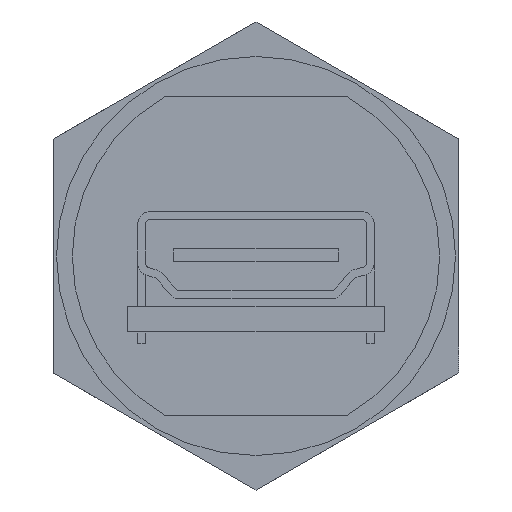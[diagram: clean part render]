
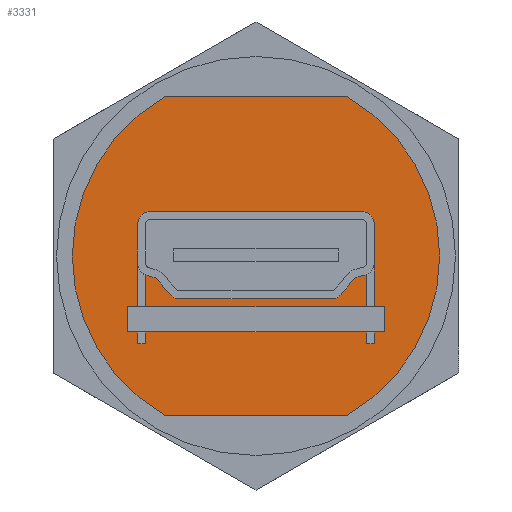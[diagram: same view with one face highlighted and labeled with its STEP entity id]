
A CAD part, left-side view. The second image highlights one B-rep face of the part: STEP entity #3331.
In plain terms, the highlighted planar face has unit normal (-1, 0, 0).
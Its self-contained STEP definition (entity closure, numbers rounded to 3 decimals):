
#259=LINE('',#8018,#543);
#260=LINE('',#8022,#544);
#261=LINE('',#8026,#545);
#262=LINE('',#8028,#546);
#263=LINE('',#8030,#547);
#264=LINE('',#8031,#548);
#543=VECTOR('',#3952,1.);
#544=VECTOR('',#3955,1.);
#545=VECTOR('',#3958,1.);
#546=VECTOR('',#3959,1.);
#547=VECTOR('',#3960,1.);
#548=VECTOR('',#3961,1.);
#835=FACE_BOUND('',#1108,.T.);
#916=FACE_OUTER_BOUND('',#1107,.T.);
#1107=EDGE_LOOP('',(#2547,#2548,#2549,#2550));
#1108=EDGE_LOOP('',(#2551,#2552,#2553,#2554));
#1248=CIRCLE('',#3595,11.6);
#1249=CIRCLE('',#3596,11.6);
#1452=VERTEX_POINT('',#8016);
#1453=VERTEX_POINT('',#8017);
#1454=VERTEX_POINT('',#8019);
#1455=VERTEX_POINT('',#8021);
#1456=VERTEX_POINT('',#8024);
#1457=VERTEX_POINT('',#8025);
#1458=VERTEX_POINT('',#8027);
#1459=VERTEX_POINT('',#8029);
#1852=EDGE_CURVE('',#1452,#1453,#259,.T.);
#1853=EDGE_CURVE('',#1453,#1454,#1248,.T.);
#1854=EDGE_CURVE('',#1454,#1455,#260,.T.);
#1855=EDGE_CURVE('',#1455,#1452,#1249,.T.);
#1856=EDGE_CURVE('',#1456,#1457,#261,.T.);
#1857=EDGE_CURVE('',#1458,#1456,#262,.T.);
#1858=EDGE_CURVE('',#1459,#1458,#263,.T.);
#1859=EDGE_CURVE('',#1459,#1457,#264,.T.);
#2547=ORIENTED_EDGE('',*,*,#1852,.T.);
#2548=ORIENTED_EDGE('',*,*,#1853,.T.);
#2549=ORIENTED_EDGE('',*,*,#1854,.T.);
#2550=ORIENTED_EDGE('',*,*,#1855,.T.);
#2551=ORIENTED_EDGE('',*,*,#1856,.F.);
#2552=ORIENTED_EDGE('',*,*,#1857,.F.);
#2553=ORIENTED_EDGE('',*,*,#1858,.F.);
#2554=ORIENTED_EDGE('',*,*,#1859,.T.);
#3180=PLANE('',#3594);
#3331=ADVANCED_FACE('',(#916,#835),#3180,.T.);
#3594=AXIS2_PLACEMENT_3D('',#8015,#3950,#3951);
#3595=AXIS2_PLACEMENT_3D('',#8020,#3953,#3954);
#3596=AXIS2_PLACEMENT_3D('',#8023,#3956,#3957);
#3950=DIRECTION('center_axis',(-1.,0.,0.));
#3951=DIRECTION('ref_axis',(0.,0.,1.));
#3952=DIRECTION('',(0.,1.,0.));
#3953=DIRECTION('center_axis',(-1.,0.,0.));
#3954=DIRECTION('ref_axis',(0.,0.,1.));
#3955=DIRECTION('',(0.,-1.,0.));
#3956=DIRECTION('center_axis',(-1.,0.,0.));
#3957=DIRECTION('ref_axis',(0.,0.,1.));
#3958=DIRECTION('',(0.,0.,1.));
#3959=DIRECTION('',(0.,-1.,0.));
#3960=DIRECTION('',(0.,0.,-1.));
#3961=DIRECTION('',(0.,-1.,0.));
#8015=CARTESIAN_POINT('Origin',(-20.,0.,0.));
#8016=CARTESIAN_POINT('',(-20.,-5.793,10.05));
#8017=CARTESIAN_POINT('',(-20.,5.793,10.05));
#8018=CARTESIAN_POINT('',(-20.,-10.804,10.05));
#8019=CARTESIAN_POINT('',(-20.,5.793,-10.05));
#8020=CARTESIAN_POINT('Origin',(-20.,0.,0.));
#8021=CARTESIAN_POINT('',(-20.,-5.793,-10.05));
#8022=CARTESIAN_POINT('',(-20.,11.546,-10.05));
#8023=CARTESIAN_POINT('Origin',(-20.,0.,0.));
#8024=CARTESIAN_POINT('',(-20.,-8.1,-4.8));
#8025=CARTESIAN_POINT('',(-20.,-8.1,-3.2));
#8026=CARTESIAN_POINT('',(-20.,-8.1,-3.2));
#8027=CARTESIAN_POINT('',(-20.,8.1,-4.8));
#8028=CARTESIAN_POINT('',(-20.,8.1,-4.8));
#8029=CARTESIAN_POINT('',(-20.,8.1,-3.2));
#8030=CARTESIAN_POINT('',(-20.,8.1,-3.2));
#8031=CARTESIAN_POINT('',(-20.,8.1,-3.2));
